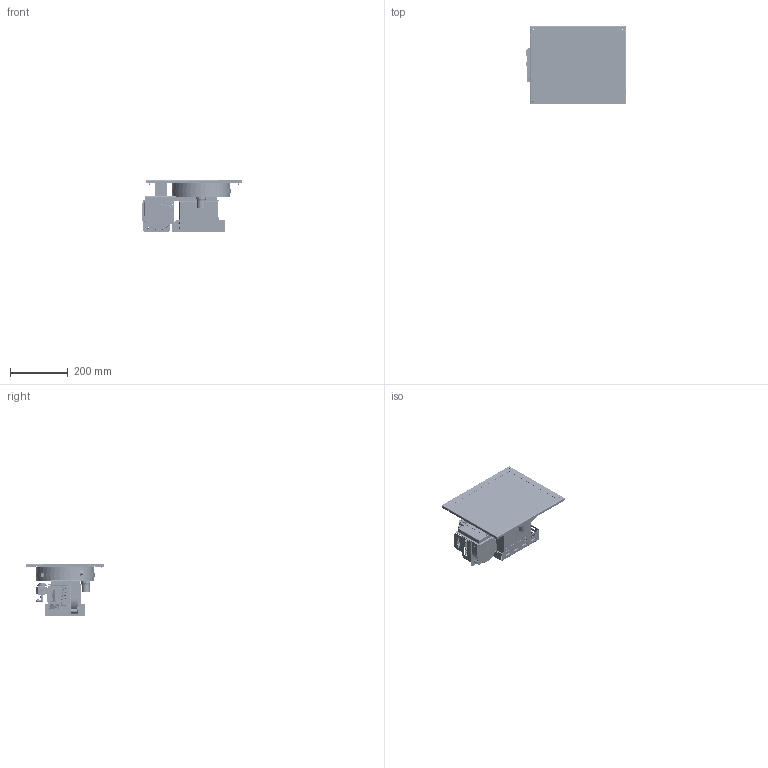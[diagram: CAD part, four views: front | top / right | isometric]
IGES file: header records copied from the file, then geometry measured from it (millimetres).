
Start section: SolidWorks IGES file using analytic representation for surfaces
Global section: file name: D:\Kuvat\Tuotekehitys\Solid Works\Mock Up\800DsL\800DsL.IGS; native system: SolidWorks 2019; preprocessor: SolidWorks 2019; author: janne; date: 190205.115359; units: millimetre
Bounding box: 344.59 x 1147.02 x 469.59 mm (x, y, z)
Surface area: 1278342.4 mm2 (no closed solid volume)
Topology: 0 solids, 0 shells, 4681 faces, 49713 edges, 49674 vertices
Faces by surface type: bspline 3198, revolution 1483
